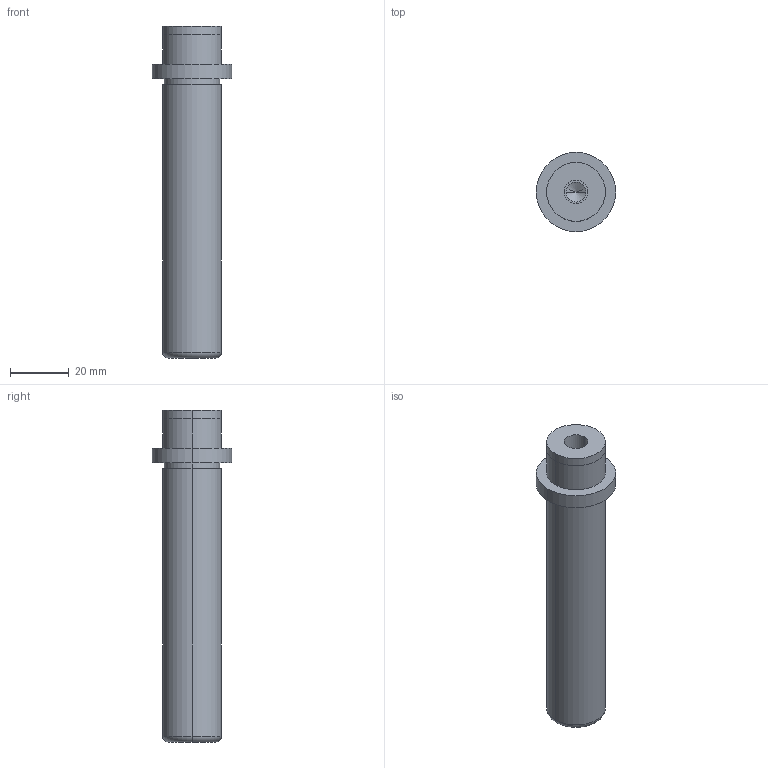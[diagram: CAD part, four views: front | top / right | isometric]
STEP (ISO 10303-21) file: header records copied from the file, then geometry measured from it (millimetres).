
FILE_DESCRIPTION(/* description */ (''),/* implementation_level */ '2;1');
FILE_NAME(/* name */ '3d_sgpr20-100_00293_r00.stp',/* time_stamp */ '2011-01-10T14:11:06+09:00',/* author */ ('MISUMI'),/* organization */ (''),/* preprocessor_version */ 'ST-DEVELOPER v11',/* originating_system */ 'UGS - NX 5.0',/* authorisation */ '');
FILE_SCHEMA (('CONFIG_CONTROL_DESIGN'));
Length unit declared in the file: millimetre
Products named in the file (1): 3d_sgpr20-100_00293_r00
Bounding box: 27 x 27 x 113 mm (x, y, z)
Volume: 35541.2 mm3; surface area: 8926.7 mm2
Topology: 1 solids, 1 shells, 24 faces, 48 edges, 29 vertices
Faces by surface type: cylinder 14, plane 6, cone 2, torus 2
Entity records: 706 total; most frequent: DIRECTION 126, CARTESIAN_POINT 100, ORIENTED_EDGE 92, AXIS2_PLACEMENT_3D 55, EDGE_CURVE 46, CIRCLE 30, EDGE_LOOP 29, VERTEX_POINT 29
